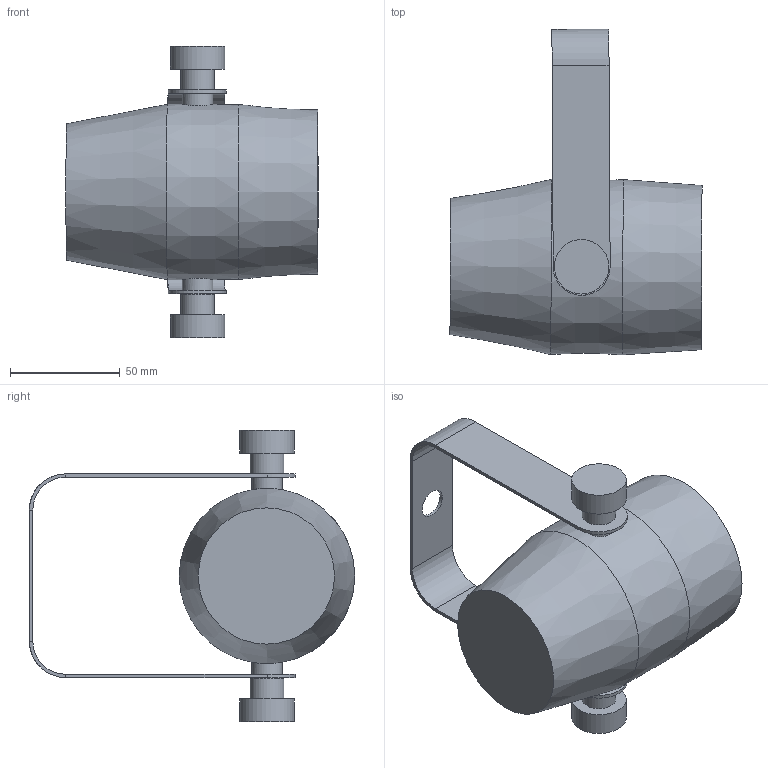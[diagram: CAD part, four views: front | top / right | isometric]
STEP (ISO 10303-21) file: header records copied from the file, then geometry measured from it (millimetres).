
FILE_DESCRIPTION(/* description */ (''),/* implementation_level */ '2;1');
FILE_NAME(/* name */ 'D:/dgooch/Documents/CADENG/PRO/Colordash Accent 3/90/3D/Colordash Accent 3_90.step',/* time_stamp */ '2019-09-11T14:47:21-04:00',/* author */ (''),/* organization */ (''),/* preprocessor_version */ 'ST-DEVELOPER v18',/* originating_system */ 'Autodesk Translation Framework v8.6.0.1094',/* authorisation */ '');
FILE_SCHEMA (('AUTOMOTIVE_DESIGN { 1 0 10303 214 3 1 1 }'));
Length unit declared in the file: millimetre
Products named in the file (3): Colordash Accent 3; Bracket; Main
Assembly tree (2 placements, depth 2):
  Colordash Accent 3
    Bracket
    Main
Bounding box: 115.11 x 148.65 x 133.24 mm (x, y, z)
Volume: 542531.3 mm3; surface area: 56969.6 mm2
Topology: 3 solids, 3 shells, 45 faces, 97 edges, 64 vertices
Faces by surface type: plane 27, cylinder 15, cone 3
Full cylindrical faces by diameter (mm): 5.2 x1, 13 x1, 14 x2, 15.313 x2, 24.873 x2, 44 x1
Entity records: 1389 total; most frequent: CARTESIAN_POINT 280, DIRECTION 239, ORIENTED_EDGE 194, EDGE_CURVE 97, AXIS2_PLACEMENT_3D 97, VERTEX_POINT 64, EDGE_LOOP 53, CIRCLE 47
